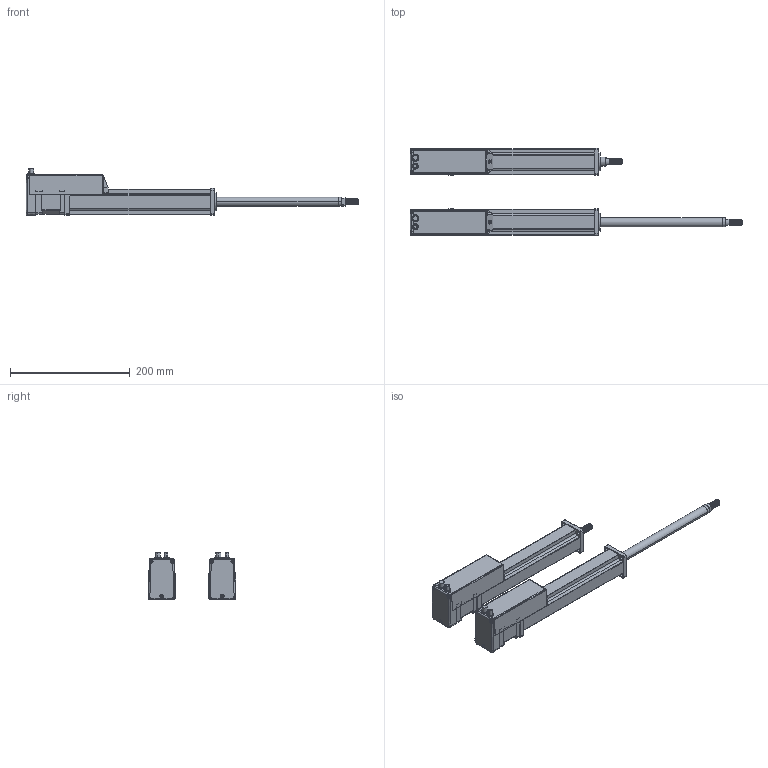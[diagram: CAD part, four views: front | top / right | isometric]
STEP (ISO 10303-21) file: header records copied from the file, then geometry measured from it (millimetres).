
FILE_DESCRIPTION(('STEP AP214'),'1');
FILE_NAME('K:\外形図\3D_DAD2\SCN5\tmp0.step',' ',(' '),(' '),'XStep 1.0',' ',' ');
FILE_SCHEMA(('automotive_design'));
Length unit declared in the file: millimetre
Bounding box: 554.5 x 146.36 x 78 mm (x, y, z)
Volume: 1315789.4 mm3; surface area: 225756.4 mm2
Topology: 40 solids, 40 shells, 996 faces, 2576 edges, 1654 vertices
Faces by surface type: plane 424, cylinder 376, bspline 126, torus 58, sphere 8, cone 4
Entity records: 155228 total; most frequent: CARTESIAN_POINT 122248, ORIENTED_EDGE 5136, DIRECTION 4996, EDGE_CURVE 2568, AXIS2_PLACEMENT_3D 1851, VERTEX_POINT 1654, LINE 1294, VECTOR 1294
